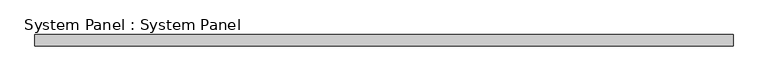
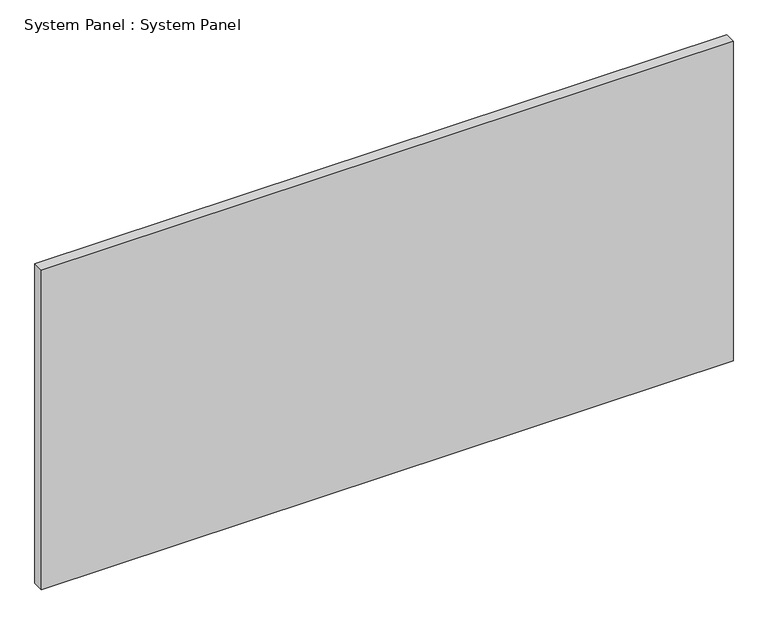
"""IFC4 building model written with IfcOpenShell, lengths in millimetres: plate geometry, System Panel : System Panel."""

from ifc_helpers import new_model, si_unit, origin, origin_with_axes, place, context, project, spatial, polyline, outline, extrude, source, transform, mapped, element, save


def system_panel_system_panel_dfb6c3b7(model_context):
    return source(origin(), model_context, "Body", "SweptSolid", [
        extrude(outline(polyline([(793.75, 19.05), (-793.75, 19.05), (-793.75, 44.45), (793.75, 44.45), (793.75, 19.05)])), origin_with_axes(), (0.0, 0.0, 1.0), 774.7),
    ])


if __name__ == "__main__":
    model = new_model("IFC4")
    model_context = context("Model", 3, world=origin())
    ifc_project = project(units=[si_unit("LENGTHUNIT", "METRE", prefix="MILLI")], contexts=[model_context])
    site = spatial("IfcSite", under=ifc_project)
    building = spatial("IfcBuilding", under=site)
    placement = place(None, origin())
    system_panel_system_panel_shape = system_panel_system_panel_dfb6c3b7(model_context)
    element("IfcPlate", 1, ObjectType="System Panel : System Panel", at=placement, inside=building, context=model_context, shape_type="MappedRepresentation", body=[
        mapped(system_panel_system_panel_shape, transform((0.0, 0.0, 0.0), x_axis=(1.0, 0.0, 0.0), y_axis=(0.0, 1.0, 0.0), z_axis=(0.0, 0.0, 1.0))),
    ])
    save(model, "model.ifc")
